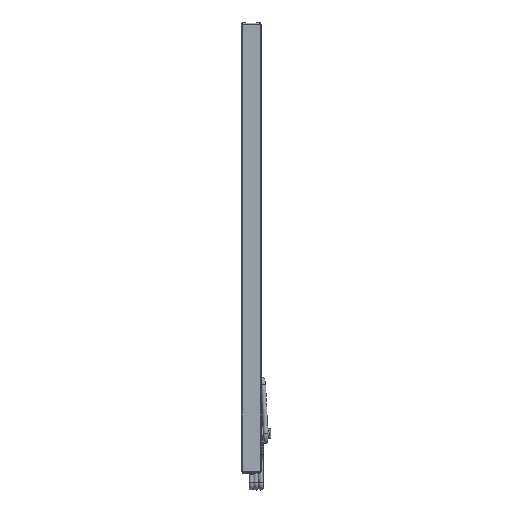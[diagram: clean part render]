
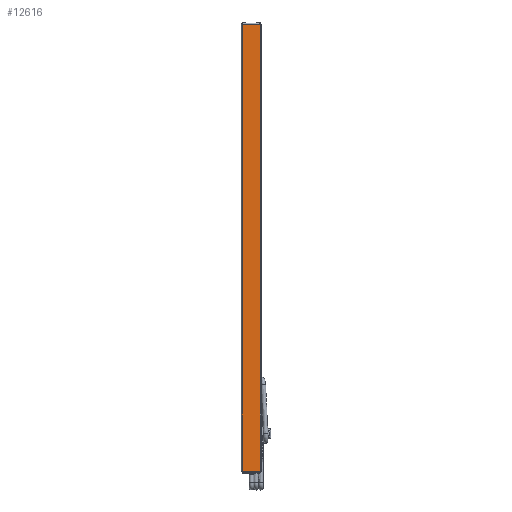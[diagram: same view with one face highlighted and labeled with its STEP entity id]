
A CAD part, front view. The second image highlights one B-rep face of the part: STEP entity #12616.
In plain terms, the highlighted planar face has unit normal (0, -1, 0).
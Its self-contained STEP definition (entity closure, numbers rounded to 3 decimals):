
#1616=FACE_OUTER_BOUND('',#2336,.T.);
#2336=EDGE_LOOP('',(#8842,#8843,#8844,#8845));
#3189=LINE('',#18133,#4306);
#3191=LINE('',#18139,#4308);
#3203=LINE('',#18189,#4320);
#3204=LINE('',#18190,#4321);
#4306=VECTOR('',#14916,10.);
#4308=VECTOR('',#14922,10.);
#4320=VECTOR('',#14962,10.);
#4321=VECTOR('',#14963,10.);
#5410=VERTEX_POINT('',#18130);
#5411=VERTEX_POINT('',#18132);
#5413=VERTEX_POINT('',#18138);
#5437=VERTEX_POINT('',#18188);
#6726=EDGE_CURVE('',#5410,#5411,#3189,.T.);
#6729=EDGE_CURVE('',#5413,#5411,#3191,.T.);
#6754=EDGE_CURVE('',#5410,#5437,#3203,.T.);
#6755=EDGE_CURVE('',#5413,#5437,#3204,.T.);
#8842=ORIENTED_EDGE('',*,*,#6726,.F.);
#8843=ORIENTED_EDGE('',*,*,#6754,.T.);
#8844=ORIENTED_EDGE('',*,*,#6755,.F.);
#8845=ORIENTED_EDGE('',*,*,#6729,.T.);
#12237=PLANE('',#13615);
#12616=ADVANCED_FACE('',(#1616),#12237,.T.);
#13615=AXIS2_PLACEMENT_3D('',#18187,#14960,#14961);
#14916=DIRECTION('',(0.,0.,-1.));
#14922=DIRECTION('',(1.,0.,0.));
#14960=DIRECTION('center_axis',(0.,-1.,0.));
#14961=DIRECTION('ref_axis',(0.,0.,-1.));
#14962=DIRECTION('',(-1.,0.,0.));
#14963=DIRECTION('',(0.,0.,1.));
#18130=CARTESIAN_POINT('',(18.421,0.,914.4));
#18132=CARTESIAN_POINT('',(18.421,0.,0.));
#18133=CARTESIAN_POINT('',(18.421,0.,0.));
#18138=CARTESIAN_POINT('',(-18.421,0.,0.));
#18139=CARTESIAN_POINT('',(-18.735,0.,0.));
#18187=CARTESIAN_POINT('Origin',(18.735,0.,0.));
#18188=CARTESIAN_POINT('',(-18.421,0.,914.4));
#18189=CARTESIAN_POINT('',(-18.735,0.,914.4));
#18190=CARTESIAN_POINT('',(-18.421,0.,0.));
